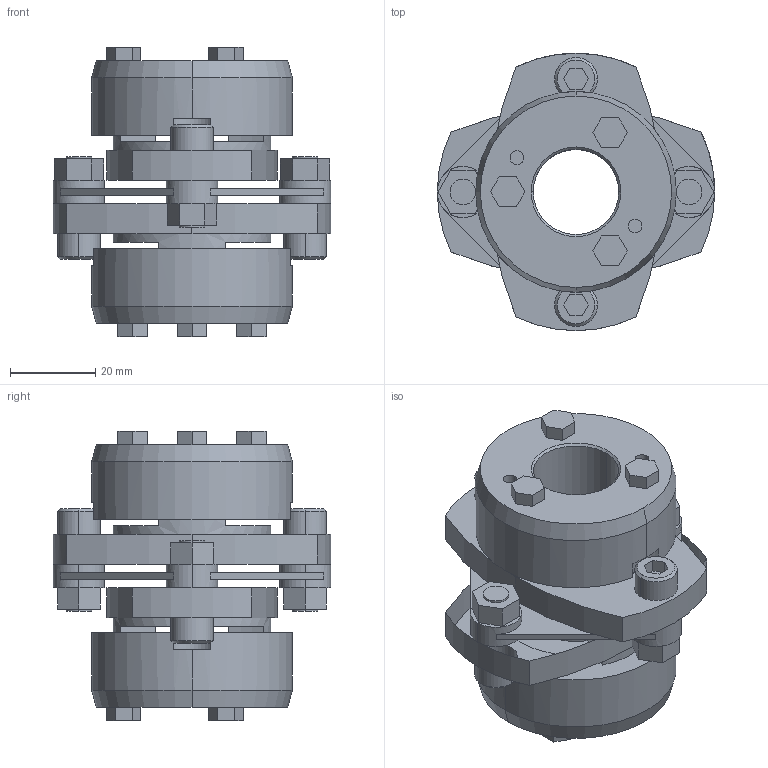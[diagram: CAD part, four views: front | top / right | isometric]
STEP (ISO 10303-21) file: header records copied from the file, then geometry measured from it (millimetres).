
FILE_DESCRIPTION((''),'2;1');
FILE_NAME('LCS-65T7-20×20.stp','2011-08-23T13:25:50',(''),(''),'AutoCAD STEP 2000i','AutoCAD 2000i',', , ');
FILE_SCHEMA(('CONFIG_CONTROL_DESIGN'));
Length unit declared in the file: millimetre
Products named in the file (9): LCS-65T7-19×19; 忣兜1; LC65T7-T019-1; LC65T7-T019; LC65T7-T017-1; LC65T7-T017; LC65T7-T015-1; LC65T7-T015; LCS65-ITA
Assembly tree (8 placements, depth 2):
  LCS-65T7-19×19
    忣兜1
    LC65T7-T019-1
    LC65T7-T019
    LC65T7-T017-1
    LC65T7-T017
    LC65T7-T015-1
    LC65T7-T015
    LCS65-ITA
Bounding box: 65 x 65 x 67.9 mm (x, y, z)
Volume: 88168.3 mm3; surface area: 30009.2 mm2
Topology: 1 solids, 1 shells, 228 faces, 586 edges, 382 vertices
Faces by surface type: plane 136, cylinder 72, cone 20
Entity records: 7195 total; most frequent: DIRECTION 1270, CARTESIAN_POINT 1205, ORIENTED_EDGE 1172, EDGE_CURVE 586, AXIS2_PLACEMENT_3D 447, VERTEX_POINT 382, VECTOR 376, LINE 376
